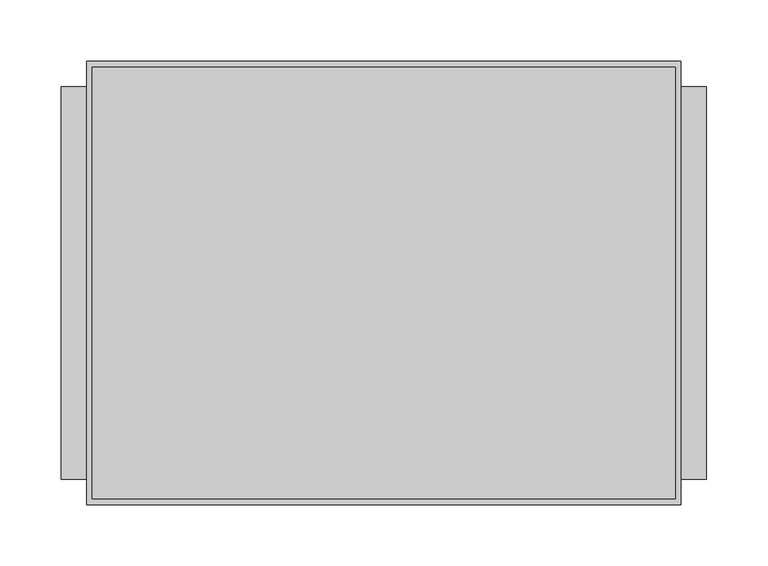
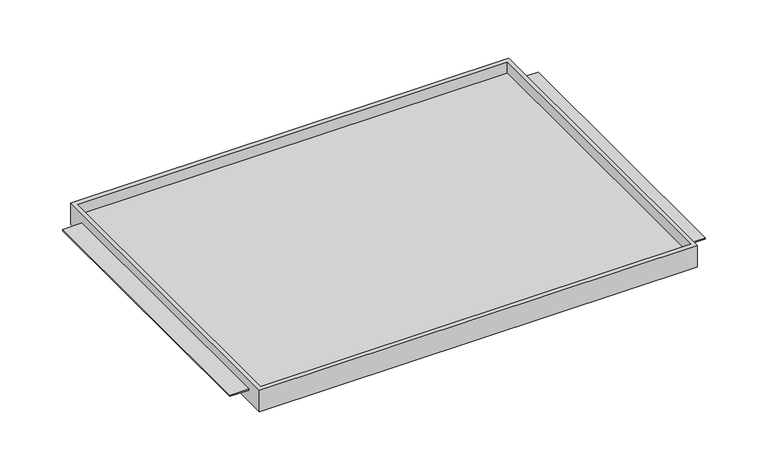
"""IFC4 building model written with IfcOpenShell, lengths in millimetres: furniture geometry."""

from ifc_helpers import new_model, si_unit, origin, place, context, project, spatial, faceted_brep, source, transform, mapped, element, save


def furniture_83f72333(model_context):
    return source(origin(), model_context, "Body", "Brep", [
        faceted_brep([(-242.7689646, -180.975, 755.65), (242.7689646, -180.975, 755.65), (242.7689646, -180.975, 781.05), (-242.7689646, -180.975, 781.05), (-242.7689646, 180.975, 755.65), (-242.7689646, 180.975, 781.05), (242.7689646, 180.975, 781.05), (242.7689646, 180.975, 755.65), (242.7689646, -160.3374879, 769.9502), (242.7689646, 160.3374879, 769.9502), (242.7689646, 160.3374879, 768.35), (242.7689646, -160.3374879, 768.35), (238.125, -176.2125, 781.05), (-238.125, -176.2125, 781.05), (-238.125, 175.91278, 781.05), (238.125, 175.91278, 781.05), (-242.7689646, 160.3374879, 769.9502), (-242.7689646, -160.3374879, 769.9502), (-242.7689646, -160.3374879, 768.35), (-242.7689646, 160.3374879, 768.35), (-238.125, -176.2125, 768.35), (238.125, -176.2125, 768.35), (238.125, 175.91278, 768.35), (-238.125, 175.91278, 768.35), (-263.525, 160.3374879, 769.9502), (-263.525, -160.3374879, 769.9502), (263.525, -160.3374879, 769.9502), (263.525, 160.3374879, 769.9502), (-263.525, -160.3374879, 768.35), (-263.525, 160.3374879, 768.35), (263.525, -160.3374879, 768.35), (263.525, 160.3374879, 768.35)], [[[0, 1, 2, 3]], [[4, 5, 6, 7]], [[1, 0, 4, 7]], [[2, 1, 7, 6], [8, 9, 10, 11]], [[3, 2, 6, 5], [12, 13, 14, 15]], [[0, 3, 5, 4], [16, 17, 18, 19]], [[20, 21, 22, 23]], [[21, 20, 13, 12]], [[22, 21, 12, 15]], [[23, 22, 15, 14]], [[20, 23, 14, 13]], [[16, 24, 25, 17]], [[26, 27, 9, 8]], [[18, 28, 29, 19]], [[30, 11, 10, 31]], [[24, 16, 19, 29]], [[25, 24, 29, 28]], [[17, 25, 28, 18]], [[27, 26, 30, 31]], [[9, 27, 31, 10]], [[26, 8, 11, 30]]]),
    ])


if __name__ == "__main__":
    model = new_model("IFC4")
    model_context = context("Model", 3, world=origin())
    ifc_project = project(units=[si_unit("LENGTHUNIT", "METRE", prefix="MILLI")], contexts=[model_context])
    site = spatial("IfcSite", under=ifc_project)
    building = spatial("IfcBuilding", under=site)
    placement = place(None, origin())
    furniture_shape = furniture_83f72333(model_context)
    element("IfcFurniture", 1, ObjectType="HermanMiller_CoStruc_CO203_CTrayShelf : 14\"D x 20\"W", at=placement, inside=building, context=model_context, shape_type="MappedRepresentation", body=[
        mapped(furniture_shape, transform((0.0, 0.0, 0.0), x_axis=(1.0, 0.0, 0.0), y_axis=(0.0, 1.0, 0.0), z_axis=(0.0, 0.0, 1.0))),
    ])
    save(model, "model.ifc")
